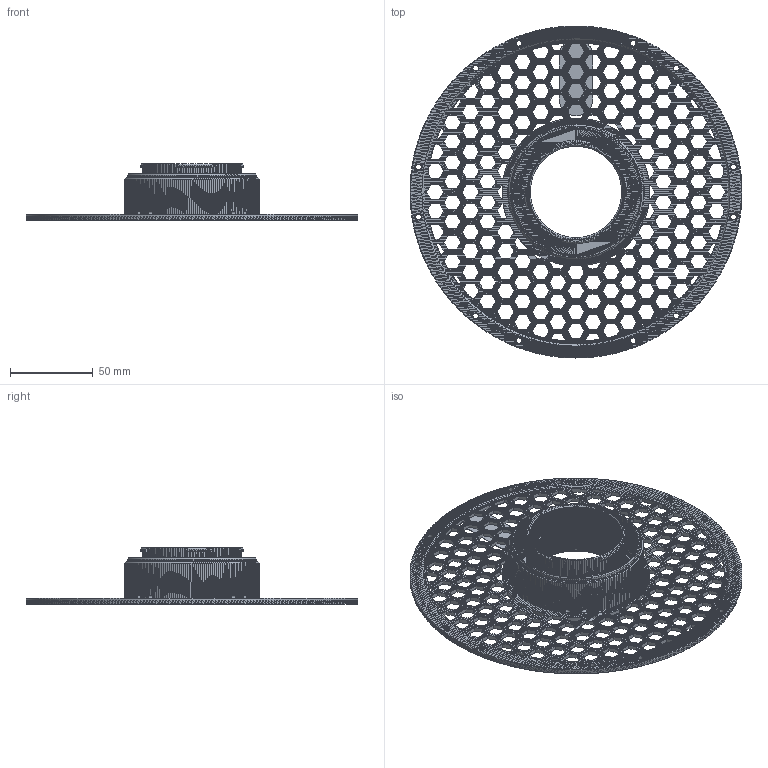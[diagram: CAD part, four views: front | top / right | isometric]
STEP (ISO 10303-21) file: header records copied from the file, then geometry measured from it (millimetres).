
FILE_DESCRIPTION(/* description */ (''),/* implementation_level */ '2;1');
FILE_NAME(/* name */ 'bambu_spool_narrow_mod.step',/* time_stamp */ '2022-12-25T00:56:20+01:00',/* author */ (''),/* organization */ (''),/* preprocessor_version */ 'ST-DEVELOPER v19.2',/* originating_system */ 'Autodesk Translation Framework v11.17.0.187',/* authorisation */ '');
FILE_SCHEMA (('AUTOMOTIVE_DESIGN { 1 0 10303 214 3 1 1 }'));
Products named in the file (1): bambu_spool_narrow_modded
Bounding box: 200 x 200 x 34.1 mm (x, y, z)
Volume: 82736 mm3; surface area: 78507.1 mm2
Topology: 1 solids, 1 shells, 22089 faces, 46025 edges, 23548 vertices
Faces by surface type: plane 22007, cylinder 82
Full cylindrical faces by diameter (mm): 2.2 x8, 3.5 x8
Entity records: 549379 total; most frequent: ORIENTED_EDGE 92306, DIRECTION 92224, CARTESIAN_POINT 91992, EDGE_CURVE 46153, LINE 44262, VECTOR 44262, AXIS2_PLACEMENT_3D 23981, VERTEX_POINT 23749
